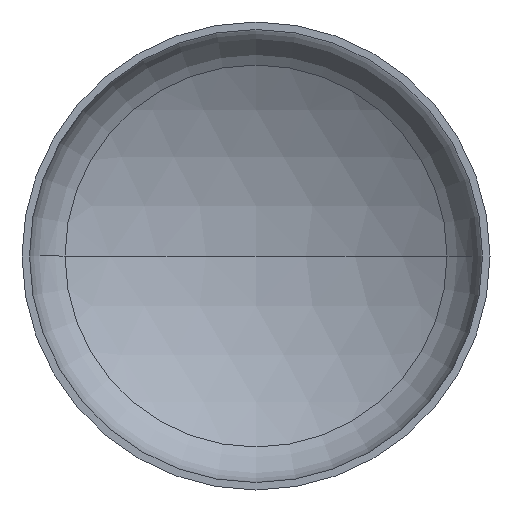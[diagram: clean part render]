
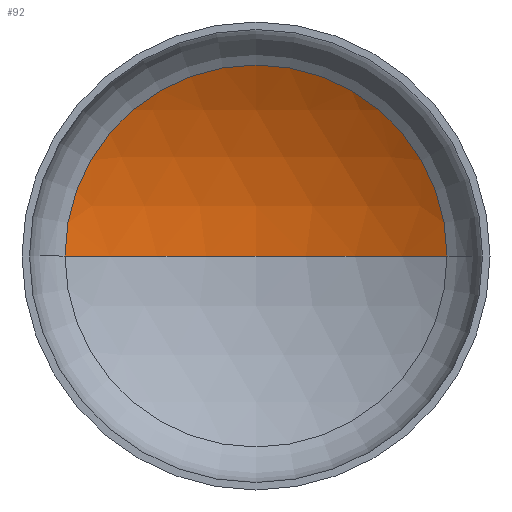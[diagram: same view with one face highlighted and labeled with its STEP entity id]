
A CAD part, front view. The second image highlights one B-rep face of the part: STEP entity #92.
In plain terms, the highlighted spherical face has radius 800 mm.
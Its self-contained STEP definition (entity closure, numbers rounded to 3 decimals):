
#11 = AXIS2_PLACEMENT_3D ( 'NONE', #411, #296, #210 ) ;
#12 = AXIS2_PLACEMENT_3D ( 'NONE', #126, #332, #149 ) ;
#22 = AXIS2_PLACEMENT_3D ( 'NONE', #389, #388, #127 ) ;
#33 = AXIS2_PLACEMENT_3D ( 'NONE', #255, #155, #261 ) ;
#46 = VERTEX_POINT ( 'NONE', #203 ) ;
#68 = CIRCLE ( 'NONE', #12, 408.062 ) ;
#83 = VERTEX_POINT ( 'NONE', #138 ) ;
#87 = VERTEX_POINT ( 'NONE', #292 ) ;
#92 = ADVANCED_FACE ( 'NONE', ( #408 ), #400, .F. ) ;
#126 = CARTESIAN_POINT ( 'NONE',  ( 0., 188.32, 0. ) ) ;
#127 = DIRECTION ( 'NONE',  ( 1., 0., 0. ) ) ;
#138 = CARTESIAN_POINT ( 'NONE',  ( 0., 300.217, 0. ) ) ;
#147 = CIRCLE ( 'NONE', #22, 800. ) ;
#149 = DIRECTION ( 'NONE',  ( 1., 0., 0. ) ) ;
#155 = DIRECTION ( 'NONE',  ( 0., 0., -1. ) ) ;
#184 = ORIENTED_EDGE ( 'NONE', *, *, #317, .F. ) ;
#203 = CARTESIAN_POINT ( 'NONE',  ( -408.062, 188.32, 0. ) ) ;
#210 = DIRECTION ( 'NONE',  ( -1., 0., 0. ) ) ;
#211 = CIRCLE ( 'NONE', #11, 800. ) ;
#255 = CARTESIAN_POINT ( 'NONE',  ( 0., -499.783, 0. ) ) ;
#261 = DIRECTION ( 'NONE',  ( -1., 0., 0. ) ) ;
#292 = CARTESIAN_POINT ( 'NONE',  ( 408.062, 188.32, 0. ) ) ;
#296 = DIRECTION ( 'NONE',  ( 0., 0., -1. ) ) ;
#302 = ORIENTED_EDGE ( 'NONE', *, *, #330, .T. ) ;
#312 = EDGE_LOOP ( 'NONE', ( #184, #382, #302 ) ) ;
#317 = EDGE_CURVE ( 'NONE', #83, #46, #147, .T. ) ;
#330 = EDGE_CURVE ( 'NONE', #87, #46, #68, .T. ) ;
#331 = EDGE_CURVE ( 'NONE', #83, #87, #211, .T. ) ;
#332 = DIRECTION ( 'NONE',  ( 0., -1., 0. ) ) ;
#382 = ORIENTED_EDGE ( 'NONE', *, *, #331, .T. ) ;
#388 = DIRECTION ( 'NONE',  ( 0., 0., 1. ) ) ;
#389 = CARTESIAN_POINT ( 'NONE',  ( 0., -499.783, 0. ) ) ;
#400 = SPHERICAL_SURFACE ( 'NONE', #33, 800. ) ;
#408 = FACE_OUTER_BOUND ( 'NONE', #312, .T. ) ;
#411 = CARTESIAN_POINT ( 'NONE',  ( 0., -499.783, 0. ) ) ;
